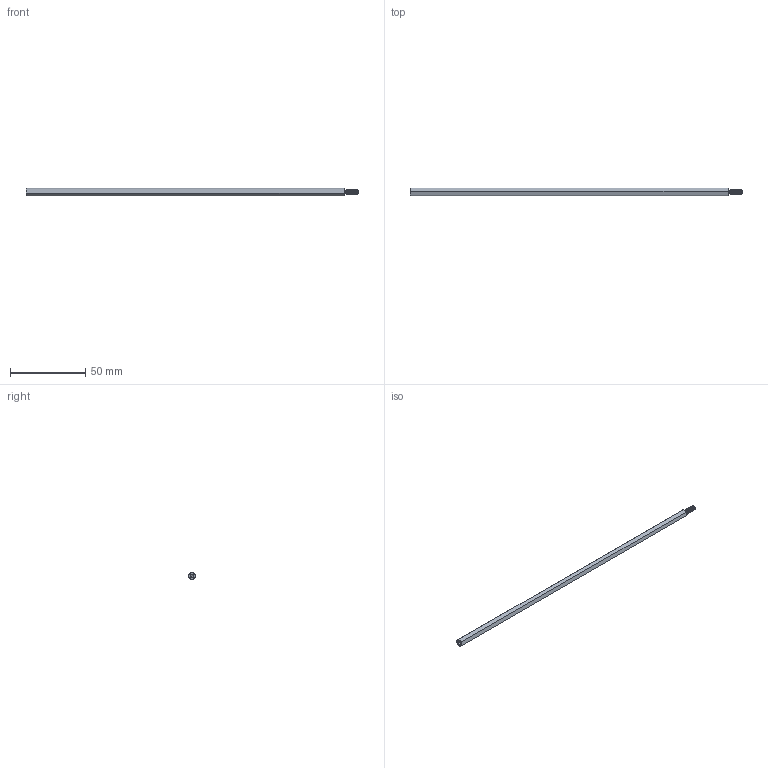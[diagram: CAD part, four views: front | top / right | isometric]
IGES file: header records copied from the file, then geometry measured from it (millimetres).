
Start section: SolidWorks IGES file using analytic representation for surfaces
Global section: file name: C:\Users\Achilles\Dropbox\BR-Engineering\PROJECTS\BROV2\MODELS\DEVELOPMENT\OLD\STANDOFF-M3X0.5-212-MF\STANDOFF-M3X0.5-212-MF.IGS; native system: SolidWorks 2016; preprocessor: SolidWorks 2016; author: Achilles; date: 190521.152614; units: millimetre
Bounding box: 221 x 4.99 x 5.04 mm (x, y, z)
Surface area: 3513.5 mm2 (no closed solid volume)
Topology: 0 solids, 0 shells, 67 faces, 1191 edges, 1189 vertices
Faces by surface type: revolution 55, bspline 12
